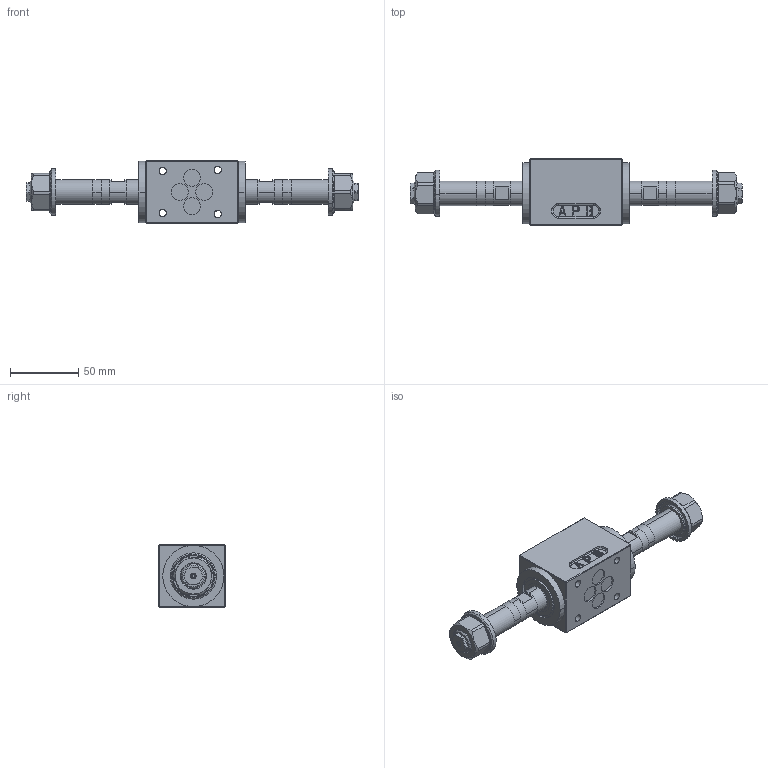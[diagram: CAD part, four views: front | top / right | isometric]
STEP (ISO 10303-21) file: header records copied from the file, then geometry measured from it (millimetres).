
FILE_DESCRIPTION (( 'STEP AP203' ), '1' );
FILE_NAME ('WDBFA06-4_3.step', '2014-01-22T12:24:53', ( 'Wandfluh AG' ), ( 'Wandfluh AG' ), 'SwSTEP 2.0', 'SolidWorks 2012', '' );
FILE_SCHEMA (( 'CONFIG_CONTROL_DESIGN' ));
Products named in the file (1): WDBFA06-4_3
Bounding box: 244 x 49 x 46 mm (x, y, z)
Volume: 210185.9 mm3; surface area: 64301.7 mm2
Topology: 23 solids, 23 shells, 2280 faces, 5780 edges, 3722 vertices
Faces by surface type: plane 1424, cylinder 524, cone 138, torus 108, bspline 68, sphere 18
Entity records: 70737 total; most frequent: CARTESIAN_POINT 14699, DIRECTION 11834, ORIENTED_EDGE 11514, EDGE_CURVE 5757, AXIS2_PLACEMENT_3D 4032, LINE 3770, VECTOR 3770, VERTEX_POINT 3722
